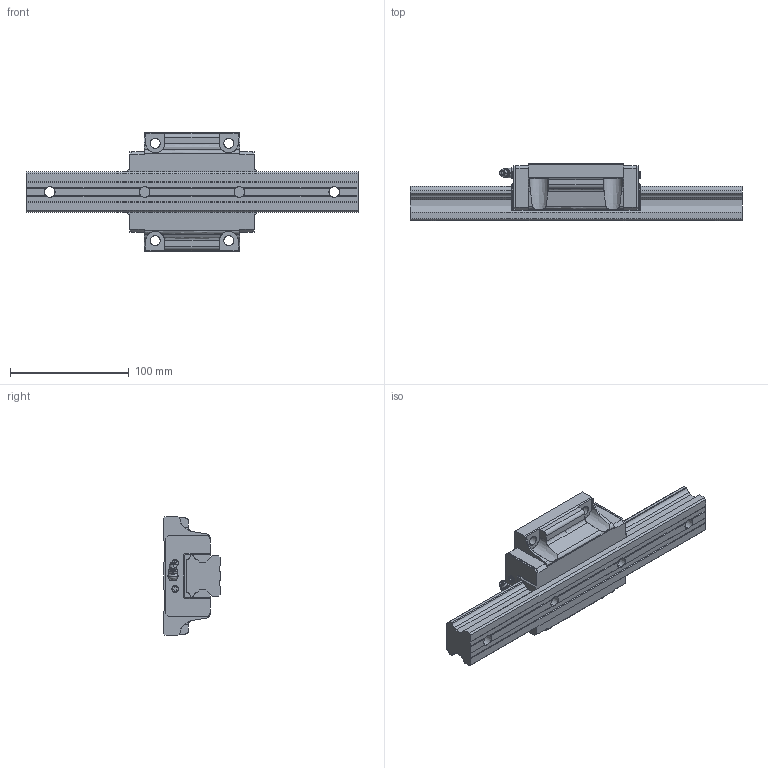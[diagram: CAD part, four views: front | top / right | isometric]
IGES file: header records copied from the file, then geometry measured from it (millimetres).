
Start section: SolidWorks IGES file using analytic representation for surfaces
Global section: file name: D:\Qsync\EOS Design B.V\Projecten\LM Systems\Models HSV\FINISHED\HSV35CSS.IGS; native system: SolidWorks 2016; preprocessor: SolidWorks 2016; author: EOS; date: 160314.144729; units: millimetre
Bounding box: 280 x 48 x 100 mm (x, y, z)
Surface area: 82421.5 mm2 (no closed solid volume)
Topology: 0 solids, 0 shells, 341 faces, 3776 edges, 3768 vertices
Faces by surface type: bspline 245, revolution 96
